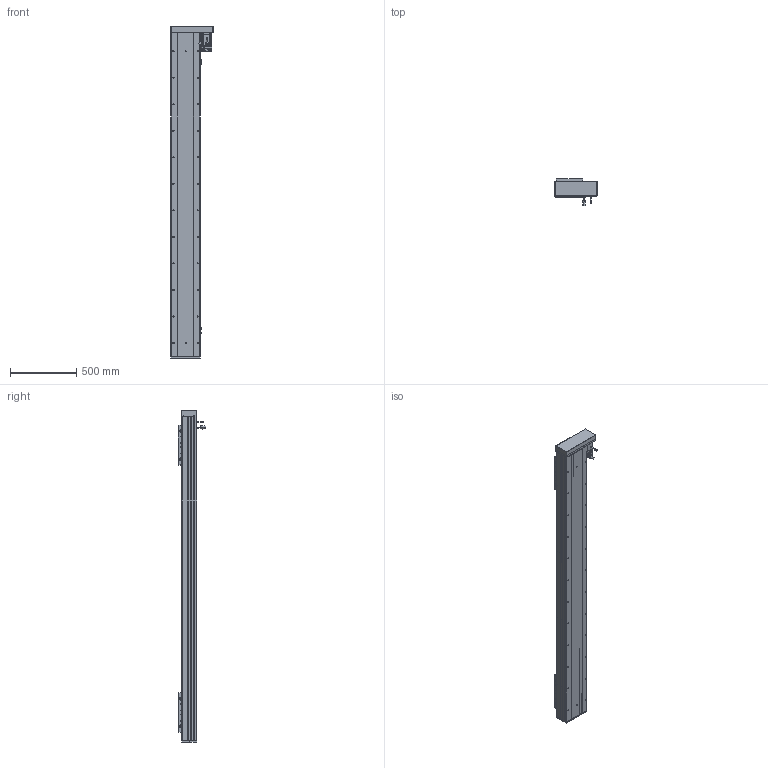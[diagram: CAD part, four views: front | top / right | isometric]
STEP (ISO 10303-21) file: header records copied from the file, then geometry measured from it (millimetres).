
FILE_DESCRIPTION (( 'STEP AP203' ), '1' );
FILE_NAME ('RY220F-L2525-800-RK-邧嶺.SLDASM_2000.step', '2022-08-06T08:20:05', ( '' ), ( '' ), 'SwSTEP 2.0', 'SolidWorks 2016', '' );
FILE_SCHEMA (( 'CONFIG_CONTROL_DESIGN' ));
Length unit declared in the file: millimetre
Products named in the file (15): RY220F-L2525-800-RK-邧嶺.SLDASM_2000; RY220酘衵殏萇儂欶; RY220F蛌殏菁釱-800-邧嶺_2000; 怢湛750W_ECMA-CX0807ES; RY220F綴裔啣; 滅袉蝶18-24; RY220F-滅鳥奻裔; 覜茼ん672; 侐源滅袉蝶; RY220F-672覜茼んえ; RY220F-詩湍揤踡輸; RY220左右折电机安装板; RY220F臏賑釱25-32佪裝; RY220F-祥凄詩湍-蛌殏-800_2000; RY220F-蛌殏奻裔啣-800_2000
Assembly tree (24 placements, depth 2):
  RY220F-L2525-800-RK-邧嶺.SLDASM_2000
    RY220F蛌殏菁釱-800-邧嶺_2000
    RY220F-蛌殏奻裔啣-800_2000  x2
    怢湛750W_ECMA-CX0807ES
    RY220F臏賑釱25-32佪裝  x2
    RY220F-滅鳥奻裔  x2
    滅袉蝶18-24  x3
    RY220F綴裔啣
    RY220F-祥凄詩湍-蛌殏-800_2000
    RY220F-詩湍揤踡輸  x2
    覜茼ん672  x3
    RY220F-672覜茼んえ  x2
    RY220左右折电机安装板
    RY220酘衵殏萇儂欶
    侐源滅袉蝶  x2
Bounding box: 317.5 x 205.27 x 2503 mm (x, y, z)
Volume: 21230493.7 mm3; surface area: 5666336.9 mm2
Topology: 25 solids, 25 shells, 2908 faces, 7888 edges, 4848 vertices
Faces by surface type: cylinder 1326, plane 1044, cone 467, bspline 45, sphere 16, torus 10
Entity records: 72504 total; most frequent: CARTESIAN_POINT 19269, ORIENTED_EDGE 10702, DIRECTION 10564, EDGE_CURVE 5351, AXIS2_PLACEMENT_3D 3794, VERTEX_POINT 3464, LINE 2976, VECTOR 2976
